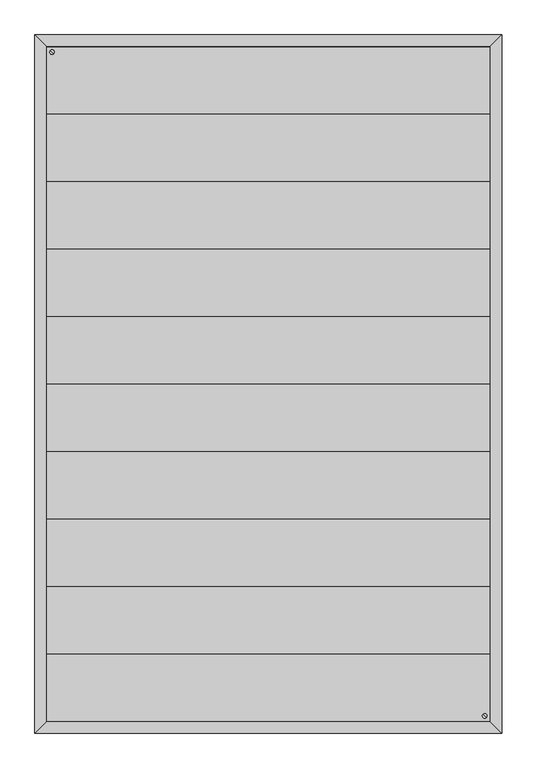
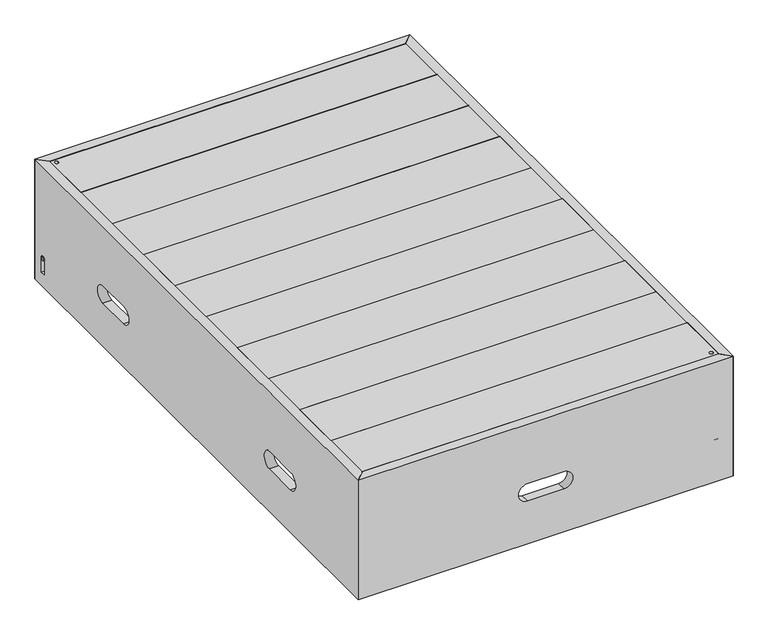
"""IFC4 building model written with IfcOpenShell, lengths in millimetres: furniture geometry, 4.6 Set de tarimas : 4.6 Set de tarimas."""

from ifc_helpers import new_model, si_unit, frame, origin, place, context, project, spatial, polyline, circle_curve, ellipse_curve, faceted_brep, source, transform, mapped, element, save
from ifc_brep_helpers import plane_surface, cylinder_surface, revolved_surface, advanced_brep


def furniture_102ea485(model_context):
    return source(origin(), model_context, "Body", "SolidModel", [
        advanced_brep(
        [(-518.85, 743.9, 83.2), (-518.85, 743.9, 38.1), (-493.45, 743.9, 38.1), (-493.45, 743.9, 83.2), (-518.85, 738.9, 88.2), (-493.45, 738.9, 88.2), (-518.85, 734.9, 88.2), (-493.45, 734.9, 88.2), (-518.85, 729.9, 83.2), (-493.45, 729.9, 83.2), (-518.85, 729.9, 38.1), (-493.45, 729.9, 38.1), (-518.85, -350.0, 125.4), (-518.85, -450.0, 125.4), (-493.45, -450.0, 125.4), (-493.45, -350.0, 125.4), (-518.85, -350.0, 175.4), (-493.45, -350.0, 175.4), (-518.85, -450.0, 175.4), (-493.45, -450.0, 175.4), (-518.85, 350.0, 175.4), (-518.85, 450.0, 175.4), (-493.45, 450.0, 175.4), (-493.45, 350.0, 175.4), (-518.85, 350.0, 125.4), (-493.45, 350.0, 125.4), (-518.85, 450.0, 125.4), (-493.45, 450.0, 125.4), (-493.45, -749.6, 350.0), (-493.45, 749.6, 350.0), (-518.85, 775.0, 350.0), (-518.85, -775.0, 350.0), (-493.45, 749.6, 0.0), (-493.45, -749.6, 0.0), (-518.85, -775.0, 0.0), (-518.85, 775.0, 0.0)],
        [
            (0, 1),
            (1, 2),
            (2, 3),
            (3, 0),
            (4, 0, circle_curve(frame((-518.85, 738.9, 83.2), z_axis=(-1.0, 0.0, 0.0), x_axis=(0.0, 0.7071067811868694, 0.7071067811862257)), 5.0)),
            (3, 5, circle_curve(frame((-493.45, 738.9, 83.2), z_axis=(1.0, 0.0, 0.0), x_axis=(0.0, 0.7071067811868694, 0.7071067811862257)), 5.0)),
            (5, 4),
            (6, 4),
            (5, 7),
            (7, 6),
            (8, 6, circle_curve(frame((-518.85, 734.9, 83.2), z_axis=(-1.0, 0.0, 0.0), x_axis=(0.0, -0.7071067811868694, 0.7071067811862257)), 5.0)),
            (7, 9, circle_curve(frame((-493.45, 734.9, 83.2), z_axis=(1.0, 0.0, 0.0), x_axis=(0.0, -0.7071067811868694, 0.7071067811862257)), 5.0)),
            (9, 8),
            (10, 8),
            (9, 11),
            (11, 10),
            (1, 10),
            (11, 2),
            (12, 13),
            (13, 14),
            (14, 15),
            (15, 12),
            (16, 12, circle_curve(frame((-518.85, -350.0, 150.4), z_axis=(-1.0, 0.0, 0.0), x_axis=(0.0, 0.7071067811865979, 0.7071067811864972)), 25.0)),
            (15, 17, circle_curve(frame((-493.45, -350.0, 150.4), z_axis=(1.0, 0.0, 0.0), x_axis=(0.0, 0.7071067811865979, 0.7071067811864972)), 25.0)),
            (17, 16),
            (18, 16),
            (17, 19),
            (19, 18),
            (13, 18, circle_curve(frame((-518.85, -450.0, 150.4), z_axis=(-1.0, 0.0, 0.0), x_axis=(0.0, -0.707106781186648, -0.7071067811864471)), 25.0)),
            (19, 14, circle_curve(frame((-493.45, -450.0, 150.4), z_axis=(1.0, 0.0, 0.0), x_axis=(0.0, -0.707106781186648, -0.7071067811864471)), 25.0)),
            (20, 21),
            (21, 22),
            (22, 23),
            (23, 20),
            (24, 20, circle_curve(frame((-518.85, 350.0, 150.4), z_axis=(-1.0, 0.0, 0.0), x_axis=(0.0, -0.7071067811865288, -0.7071067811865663)), 25.0)),
            (23, 25, circle_curve(frame((-493.45, 350.0, 150.4), z_axis=(1.0, 0.0, 0.0), x_axis=(0.0, -0.7071067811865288, -0.7071067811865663)), 25.0)),
            (25, 24),
            (26, 24),
            (25, 27),
            (27, 26),
            (21, 26, circle_curve(frame((-518.85, 450.0, 150.4), z_axis=(-1.0, 0.0, 0.0), x_axis=(0.0, 0.7071067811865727, 0.7071067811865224)), 25.0)),
            (27, 22, circle_curve(frame((-493.45, 450.0, 150.4), z_axis=(1.0, 0.0, 0.0), x_axis=(0.0, 0.7071067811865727, 0.7071067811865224)), 25.0)),
            (28, 29),
            (29, 30),
            (30, 31),
            (31, 28),
            (32, 33),
            (33, 34),
            (34, 35),
            (35, 32),
            (35, 30),
            (29, 32),
            (34, 31),
            (33, 28),
        ],
        [
            plane_surface(frame((-477.8826038, 743.9, 38.1), z_axis=(0.0, -1.0, 0.0), x_axis=(-1.0, 0.0, 0.0))),
            revolved_surface(polyline([(-518.85, 742.4355339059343, 86.73553390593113), (-493.45, 742.4355339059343, 86.73553390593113)]), (-477.8826038, 738.9, 83.2), (-1.0, 0.0, 0.0)),
            plane_surface(frame((-477.8826038, 738.9, 88.2), z_axis=(0.0, 0.0, -1.0), x_axis=(-1.0, 0.0, 0.0))),
            revolved_surface(polyline([(-518.85, 731.3644660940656, 86.73553390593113), (-493.45, 731.3644660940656, 86.73553390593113)]), (-477.8826038, 734.9, 83.2), (-1.0, 0.0, 0.0)),
            plane_surface(frame((-477.8826038, 729.9, 83.2), z_axis=(0.0, 1.0, 0.0), x_axis=(1.0, 0.0, 0.0))),
            plane_surface(frame((-477.8826038, 729.9, 38.1), z_axis=(0.0, 0.0, 1.0), x_axis=(1.0, 0.0, 0.0))),
            plane_surface(frame((-368.5812878, -450.0, 125.4), z_axis=(0.0, 0.0, 1.0), x_axis=(-1.0, 0.0, 0.0))),
            revolved_surface(polyline([(-518.85, -332.32233047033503, 168.07766952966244), (-493.45, -332.32233047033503, 168.07766952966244)]), (-368.5812878, -350.0, 150.4), (-1.0, 0.0, 0.0)),
            plane_surface(frame((-368.5812878, -350.0, 175.4), z_axis=(0.0, 0.0, -1.0), x_axis=(1.0, 0.0, 0.0))),
            revolved_surface(polyline([(-518.85, -467.6776695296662, 132.72233047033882), (-493.45, -467.6776695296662, 132.72233047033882)]), (-368.5812878, -450.0, 150.4), (-1.0, 0.0, 0.0)),
            plane_surface(frame((-368.5812878, 450.0, 175.4), z_axis=(0.0, 0.0, -1.0), x_axis=(1.0, 0.0, 0.0))),
            revolved_surface(polyline([(-518.85, 332.3223304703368, 132.72233047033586), (-493.45, 332.3223304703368, 132.72233047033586)]), (-368.5812878, 350.0, 150.4), (-1.0, 0.0, 0.0)),
            plane_surface(frame((-368.5812878, 350.0, 125.4), z_axis=(0.0, 0.0, 1.0), x_axis=(-1.0, 0.0, 0.0))),
            revolved_surface(polyline([(-518.85, 467.67766952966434, 168.07766952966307), (-493.45, 467.67766952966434, 168.07766952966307)]), (-368.5812878, 450.0, 150.4), (-1.0, 0.0, 0.0)),
            plane_surface(frame((-1066.4264895, -1060.8163252, 350.0), z_axis=(0.0, 0.0, 1.0), x_axis=(1.0, 0.0, 0.0))),
            plane_surface(frame((-506.15, 0.0, 0.0), z_axis=(0.0, 0.0, -1.0), x_axis=(1.0, 0.0, 0.0))),
            plane_surface(frame((-509.8697439, 766.0197439, 62.0803864), z_axis=(0.7071067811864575, 0.7071067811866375, 0.0), x_axis=(0.0, 0.0, 1.0))),
            plane_surface(frame((-518.85, 0.0, 62.0803864), z_axis=(-1.0, 0.0, 0.0), x_axis=(0.0, 0.0, -1.0))),
            plane_surface(frame((-509.8697439, -766.0197439, 62.0803864), z_axis=(0.7071067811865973, -0.7071067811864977, 0.0), x_axis=(0.0, 0.0, -1.0))),
            plane_surface(frame((-493.45, 0.0, 62.0803864), z_axis=(1.0, 0.0, 0.0), x_axis=(0.0, 0.0, 1.0))),
        ],
        [
            (0, [[1, 2, 3, 4]]),
            (1, [[5, -4, 6, 7]]),
            (2, [[8, -7, 9, 10]]),
            (3, [[11, -10, 12, 13]]),
            (4, [[14, -13, 15, 16]]),
            (5, [[17, -16, 18, -2]]),
            (6, [[19, 20, 21, 22]]),
            (7, [[23, -22, 24, 25]]),
            (8, [[26, -25, 27, 28]]),
            (9, [[29, -28, 30, -20]]),
            (10, [[31, 32, 33, 34]]),
            (11, [[35, -34, 36, 37]]),
            (12, [[38, -37, 39, 40]]),
            (13, [[41, -40, 42, -32]]),
            (14, [[43, 44, 45, 46]]),
            (15, [[47, 48, 49, 50]]),
            (16, [[51, -44, 52, -50]]),
            (17, [[53, -45, -51, -49], [-11, -14, -17, -1, -5, -8], [-26, -29, -19, -23], [-38, -41, -31, -35]]),
            (18, [[54, -46, -53, -48]]),
            (19, [[-52, -43, -54, -47], [-12, -9, -6, -3, -18, -15], [-27, -24, -21, -30], [-39, -36, -33, -42]]),
        ],
    ),
        advanced_brep(
        [(518.85, -743.9, 83.2), (518.85, -743.9, 38.1), (493.45, -743.9, 38.1), (493.45, -743.9, 83.2), (518.85, -738.9, 88.2), (493.45, -738.9, 88.2), (518.85, -734.9, 88.2), (493.45, -734.9, 88.2), (518.85, -729.9, 83.2), (493.45, -729.9, 83.2), (518.85, -729.9, 38.1), (493.45, -729.9, 38.1), (518.85, 450.0, 175.4), (518.85, 350.0, 175.4), (493.45, 350.0, 175.4), (493.45, 450.0, 175.4), (518.85, 450.0, 125.4), (493.45, 450.0, 125.4), (518.85, 350.0, 125.4), (493.45, 350.0, 125.4), (518.85, -450.0, 125.4), (518.85, -350.0, 125.4), (493.45, -350.0, 125.4), (493.45, -450.0, 125.4), (518.85, -450.0, 175.4), (493.45, -450.0, 175.4), (518.85, -350.0, 175.4), (493.45, -350.0, 175.4), (493.45, 749.6, 350.0), (493.45, -749.6, 350.0), (518.85, -775.0, 350.0), (518.85, 775.0, 350.0), (493.45, -749.6, 0.0), (493.45, 749.6, 0.0), (518.85, 775.0, 0.0), (518.85, -775.0, 0.0)],
        [
            (0, 1),
            (1, 2),
            (2, 3),
            (3, 0),
            (4, 0, circle_curve(frame((518.85, -738.9, 83.2), z_axis=(1.0, 0.0, 0.0), x_axis=(0.0, -0.7071067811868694, 0.7071067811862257)), 5.0)),
            (3, 5, circle_curve(frame((493.45, -738.9, 83.2), z_axis=(-1.0, 0.0, 0.0), x_axis=(0.0, -0.7071067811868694, 0.7071067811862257)), 5.0)),
            (5, 4),
            (6, 4),
            (5, 7),
            (7, 6),
            (8, 6, circle_curve(frame((518.85, -734.9, 83.2), z_axis=(1.0, 0.0, 0.0), x_axis=(0.0, 0.7071067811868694, 0.7071067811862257)), 5.0)),
            (7, 9, circle_curve(frame((493.45, -734.9, 83.2), z_axis=(-1.0, 0.0, 0.0), x_axis=(0.0, 0.7071067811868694, 0.7071067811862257)), 5.0)),
            (9, 8),
            (10, 8),
            (9, 11),
            (11, 10),
            (1, 10),
            (11, 2),
            (12, 13),
            (13, 14),
            (14, 15),
            (15, 12),
            (16, 12, circle_curve(frame((518.85, 450.0, 150.4), z_axis=(1.0, 0.0, 0.0), x_axis=(0.0, 0.7071067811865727, 0.7071067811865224)), 25.0)),
            (15, 17, circle_curve(frame((493.45, 450.0, 150.4), z_axis=(-1.0, 0.0, 0.0), x_axis=(0.0, 0.7071067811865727, 0.7071067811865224)), 25.0)),
            (17, 16),
            (18, 16),
            (17, 19),
            (19, 18),
            (13, 18, circle_curve(frame((518.85, 350.0, 150.4), z_axis=(1.0, 0.0, 0.0), x_axis=(0.0, -0.7071067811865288, -0.7071067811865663)), 25.0)),
            (19, 14, circle_curve(frame((493.45, 350.0, 150.4), z_axis=(-1.0, 0.0, 0.0), x_axis=(0.0, -0.7071067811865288, -0.7071067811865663)), 25.0)),
            (20, 21),
            (21, 22),
            (22, 23),
            (23, 20),
            (24, 20, circle_curve(frame((518.85, -450.0, 150.4), z_axis=(1.0, 0.0, 0.0), x_axis=(0.0, -0.707106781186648, -0.7071067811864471)), 25.0)),
            (23, 25, circle_curve(frame((493.45, -450.0, 150.4), z_axis=(-1.0, 0.0, 0.0), x_axis=(0.0, -0.707106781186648, -0.7071067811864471)), 25.0)),
            (25, 24),
            (26, 24),
            (25, 27),
            (27, 26),
            (21, 26, circle_curve(frame((518.85, -350.0, 150.4), z_axis=(1.0, 0.0, 0.0), x_axis=(0.0, 0.7071067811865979, 0.7071067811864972)), 25.0)),
            (27, 22, circle_curve(frame((493.45, -350.0, 150.4), z_axis=(-1.0, 0.0, 0.0), x_axis=(0.0, 0.7071067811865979, 0.7071067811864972)), 25.0)),
            (28, 29),
            (29, 30),
            (30, 31),
            (31, 28),
            (32, 33),
            (33, 34),
            (34, 35),
            (35, 32),
            (31, 34),
            (33, 28),
            (30, 35),
            (29, 32),
        ],
        [
            plane_surface(frame((482.9566379, -743.9, 38.1), z_axis=(0.0, 1.0, 0.0), x_axis=(1.0, 0.0, 0.0))),
            revolved_surface(polyline([(518.85, -742.4355339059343, 86.73553390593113), (493.45, -742.4355339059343, 86.73553390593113)]), (482.9566379, -738.9, 83.2), (1.0, 0.0, 0.0)),
            plane_surface(frame((482.9566379, -738.9, 88.2), z_axis=(0.0, 0.0, -1.0), x_axis=(1.0, 0.0, 0.0))),
            revolved_surface(polyline([(518.85, -731.3644660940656, 86.73553390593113), (493.45, -731.3644660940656, 86.73553390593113)]), (482.9566379, -734.9, 83.2), (1.0, 0.0, 0.0)),
            plane_surface(frame((482.9566379, -729.9, 83.2), z_axis=(0.0, -1.0, 0.0), x_axis=(-1.0, 0.0, 0.0))),
            plane_surface(frame((482.9566379, -729.9, 38.1), z_axis=(0.0, 0.0, 1.0), x_axis=(-1.0, 0.0, 0.0))),
            plane_surface(frame((368.5812878, 450.0, 175.4), z_axis=(0.0, 0.0, -1.0), x_axis=(-1.0, 0.0, 0.0))),
            revolved_surface(polyline([(493.45, 467.67766952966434, 168.07766952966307), (518.85, 467.67766952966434, 168.07766952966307)]), (368.5812878, 450.0, 150.4), (-1.0, 0.0, 0.0)),
            plane_surface(frame((368.5812878, 350.0, 125.4), z_axis=(0.0, 0.0, 1.0), x_axis=(1.0, 0.0, 0.0))),
            revolved_surface(polyline([(493.45, 332.3223304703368, 132.72233047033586), (518.85, 332.3223304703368, 132.72233047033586)]), (368.5812878, 350.0, 150.4), (-1.0, 0.0, 0.0)),
            plane_surface(frame((368.5812878, -450.0, 125.4), z_axis=(0.0, 0.0, 1.0), x_axis=(1.0, 0.0, 0.0))),
            revolved_surface(polyline([(493.45, -467.6776695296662, 132.72233047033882), (518.85, -467.6776695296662, 132.72233047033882)]), (368.5812878, -450.0, 150.4), (-1.0, 0.0, 0.0)),
            plane_surface(frame((368.5812878, -350.0, 175.4), z_axis=(0.0, 0.0, -1.0), x_axis=(-1.0, 0.0, 0.0))),
            revolved_surface(polyline([(493.45, -332.32233047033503, 168.07766952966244), (518.85, -332.32233047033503, 168.07766952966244)]), (368.5812878, -350.0, 150.4), (-1.0, 0.0, 0.0)),
            plane_surface(frame((-1066.5675451, -1060.8163252, 350.0), z_axis=(0.0, 0.0, 1.0), x_axis=(-1.0, 0.0, 0.0))),
            plane_surface(frame((506.15, 0.0, 0.0), z_axis=(0.0, 0.0, -1.0), x_axis=(-1.0, 0.0, 0.0))),
            plane_surface(frame((509.8697439, 766.0197439, 62.0803864), z_axis=(-0.7071067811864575, 0.7071067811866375, 0.0), x_axis=(0.0, 0.0, 1.0))),
            plane_surface(frame((518.85, 0.0, 62.0803864), z_axis=(1.0, 0.0, 0.0), x_axis=(0.0, 0.0, -1.0))),
            plane_surface(frame((509.8697439, -766.0197439, 62.0803864), z_axis=(-0.7071067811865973, -0.7071067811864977, 0.0), x_axis=(0.0, 0.0, -1.0))),
            plane_surface(frame((493.45, 0.0, 62.0803864), z_axis=(-1.0, 0.0, 0.0), x_axis=(0.0, 0.0, 1.0))),
        ],
        [
            (0, [[1, 2, 3, 4]]),
            (1, [[5, -4, 6, 7]]),
            (2, [[8, -7, 9, 10]]),
            (3, [[11, -10, 12, 13]]),
            (4, [[14, -13, 15, 16]]),
            (5, [[17, -16, 18, -2]]),
            (6, [[19, 20, 21, 22]]),
            (7, [[23, -22, 24, 25]]),
            (8, [[26, -25, 27, 28]]),
            (9, [[29, -28, 30, -20]]),
            (10, [[31, 32, 33, 34]]),
            (11, [[35, -34, 36, 37]]),
            (12, [[38, -37, 39, 40]]),
            (13, [[41, -40, 42, -32]]),
            (14, [[43, 44, 45, 46]]),
            (15, [[47, 48, 49, 50]]),
            (16, [[51, -48, 52, -46]]),
            (17, [[53, -49, -51, -45], [-11, -14, -17, -1, -5, -8], [-26, -29, -19, -23], [-38, -41, -31, -35]]),
            (18, [[54, -50, -53, -44]]),
            (19, [[-52, -47, -54, -43], [-12, -9, -6, -3, -18, -15], [-27, -24, -21, -30], [-39, -36, -33, -42]]),
        ],
    ),
        advanced_brep(
        [(50.0, 775.0, 125.4), (-50.0, 775.0, 125.4), (-50.0, 749.6, 125.4), (50.0, 749.6, 125.4), (54.4542115, 775.0, 175.0), (54.4542115, 749.6, 175.0), (-54.4542115, 775.0, 175.0), (-54.4542115, 749.6, 175.0), (-518.85, 775.0, 0.0), (-493.45, 749.6, 0.0), (-493.45, 749.6, 350.0), (-518.85, 775.0, 350.0), (518.85, 775.0, 350.0), (518.85, 775.0, 0.0), (493.45, 749.6, 0.0), (493.45, 749.6, 350.0)],
        [
            (0, 1),
            (1, 2),
            (2, 3),
            (3, 0),
            (4, 0, circle_curve(frame((50.0, 775.0, 150.4), z_axis=(0.0, 1.0, 0.0), x_axis=(0.7675182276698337, 0.0, 0.6410271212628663)), 25.0)),
            (3, 5, circle_curve(frame((50.0, 749.6, 150.4), z_axis=(0.0, -1.0, 0.0), x_axis=(0.7675182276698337, 0.0, 0.6410271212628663)), 25.0)),
            (5, 4),
            (6, 4),
            (5, 7),
            (7, 6),
            (1, 6, circle_curve(frame((-50.0, 775.0, 150.4), z_axis=(0.0, 1.0, 0.0), x_axis=(-0.70710678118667, 0.0, -0.707106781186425)), 25.0)),
            (7, 2, circle_curve(frame((-50.0, 749.6, 150.4), z_axis=(0.0, -1.0, 0.0), x_axis=(-0.70710678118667, 0.0, -0.707106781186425)), 25.0)),
            (8, 9),
            (9, 10),
            (10, 11),
            (11, 8),
            (11, 12),
            (12, 13),
            (13, 8),
            (13, 14),
            (14, 9),
            (10, 15),
            (15, 12),
            (15, 14),
        ],
        [
            plane_surface(frame((-50.0, 745.0, 125.4), z_axis=(0.0, 0.0, 1.0), x_axis=(0.0, 1.0, 0.0))),
            revolved_surface(polyline([(69.18795569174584, 775.0, 166.42567803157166), (69.18795569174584, 749.6, 166.42567803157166)]), (50.0, 745.0, 150.4), (0.0, 1.0, 0.0)),
            plane_surface(frame((54.4542115, 745.0, 175.0), z_axis=(0.0, 0.0, -1.0), x_axis=(0.0, -1.0, 0.0))),
            revolved_surface(polyline([(-67.67766952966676, 775.0, 132.7223304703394), (-67.67766952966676, 749.6, 132.7223304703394)]), (-50.0, 745.0, 150.4), (0.0, 1.0, 0.0)),
            plane_surface(frame((-381.15, 637.3, 62.0803864), z_axis=(-0.7071067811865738, -0.7071067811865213, 0.0), x_axis=(0.0, 0.0, 1.0))),
            plane_surface(frame((-256.15, 775.0, 62.0803864), z_axis=(0.0, 1.0, 0.0), x_axis=(0.0, 0.0, -1.0))),
            plane_surface(frame((-256.15, 762.3, 0.0), z_axis=(0.0, 0.0, -1.0), x_axis=(0.0, -1.0, 0.0))),
            plane_surface(frame((-1322.6470173, 774.8937798, 350.0), z_axis=(0.0, 0.0, 1.0), x_axis=(0.0, -1.0, 0.0))),
            plane_surface(frame((509.8697439, 766.0197439, 62.0803864), z_axis=(0.7071067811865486, -0.7071067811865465, 0.0), x_axis=(0.0, 0.0, -1.0))),
            plane_surface(frame((-256.15, 749.6, 62.0803864), z_axis=(0.0, -1.0, 0.0), x_axis=(0.0, 0.0, 1.0))),
        ],
        [
            (0, [[1, 2, 3, 4]]),
            (1, [[5, -4, 6, 7]]),
            (2, [[8, -7, 9, 10]]),
            (3, [[11, -10, 12, -2]]),
            (4, [[13, 14, 15, 16]]),
            (5, [[-16, 17, 18, 19], [-8, -11, -1, -5]]),
            (6, [[-13, -19, 20, 21]]),
            (7, [[-15, 22, 23, -17]]),
            (8, [[24, -20, -18, -23]]),
            (9, [[-14, -21, -24, -22], [-9, -6, -3, -12]]),
        ],
    ),
        advanced_brep(
        [(-50.0, -775.0, 125.4), (50.0, -775.0, 125.4), (50.0, -749.6, 125.4), (-50.0, -749.6, 125.4), (-54.4542115, -775.0, 175.0), (-54.4542115, -749.6, 175.0), (54.4542115, -775.0, 175.0), (54.4542115, -749.6, 175.0), (-493.45, -749.6, 0.0), (-518.85, -775.0, 0.0), (-518.85, -775.0, 350.0), (-493.45, -749.6, 350.0), (518.85, -775.0, 0.0), (518.85, -775.0, 350.0), (493.45, -749.6, 0.0), (493.45, -749.6, 350.0)],
        [
            (0, 1),
            (1, 2),
            (2, 3),
            (3, 0),
            (4, 0, circle_curve(frame((-50.0, -775.0, 150.4), z_axis=(0.0, -1.0, 0.0), x_axis=(-0.70710678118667, 0.0, -0.707106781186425)), 25.0)),
            (3, 5, circle_curve(frame((-50.0, -749.6, 150.4), z_axis=(0.0, 1.0, 0.0), x_axis=(-0.70710678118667, 0.0, -0.707106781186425)), 25.0)),
            (5, 4),
            (6, 4),
            (5, 7),
            (7, 6),
            (1, 6, circle_curve(frame((50.0, -775.0, 150.4), z_axis=(0.0, -1.0, 0.0), x_axis=(0.7675182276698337, 0.0, 0.6410271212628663)), 25.0)),
            (7, 2, circle_curve(frame((50.0, -749.6, 150.4), z_axis=(0.0, 1.0, 0.0), x_axis=(0.7675182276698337, 0.0, 0.6410271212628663)), 25.0)),
            (8, 9),
            (9, 10),
            (10, 11),
            (11, 8),
            (9, 12),
            (12, 13),
            (13, 10),
            (8, 14),
            (14, 12),
            (13, 15),
            (15, 11),
            (14, 15),
        ],
        [
            plane_surface(frame((-50.0, -745.0, 125.4), z_axis=(0.0, 0.0, 1.0), x_axis=(0.0, -1.0, 0.0))),
            revolved_surface(polyline([(-67.67766952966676, -749.6, 132.7223304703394), (-67.67766952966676, -775.0, 132.7223304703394)]), (-50.0, -745.0, 150.4), (0.0, 1.0, 0.0)),
            plane_surface(frame((54.4542115, -745.0, 175.0), z_axis=(0.0, 0.0, -1.0), x_axis=(0.0, 1.0, 0.0))),
            revolved_surface(polyline([(69.18795569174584, -749.6, 166.42567803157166), (69.18795569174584, -775.0, 166.42567803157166)]), (50.0, -745.0, 150.4), (0.0, 1.0, 0.0)),
            plane_surface(frame((-381.15, -637.3, 62.0803864), z_axis=(-0.7071067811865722, 0.7071067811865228, 0.0), x_axis=(0.0, 0.0, 1.0))),
            plane_surface(frame((-256.15, -775.0, 62.0803864), z_axis=(0.0, -1.0, 0.0), x_axis=(0.0, 0.0, -1.0))),
            plane_surface(frame((-256.15, -762.3, 0.0), z_axis=(0.0, 0.0, -1.0), x_axis=(0.0, 1.0, 0.0))),
            plane_surface(frame((-1322.6470173, -1060.710105, 350.0), z_axis=(0.0, 0.0, 1.0), x_axis=(0.0, 1.0, 0.0))),
            plane_surface(frame((509.8697439, -766.0197439, 62.0803864), z_axis=(0.7071067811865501, 0.7071067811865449, 0.0), x_axis=(0.0, 0.0, -1.0))),
            plane_surface(frame((-256.15, -749.6, 62.0803864), z_axis=(0.0, 1.0, 0.0), x_axis=(0.0, 0.0, 1.0))),
        ],
        [
            (0, [[1, 2, 3, 4]]),
            (1, [[5, -4, 6, 7]]),
            (2, [[8, -7, 9, 10]]),
            (3, [[11, -10, 12, -2]]),
            (4, [[13, 14, 15, 16]]),
            (5, [[-14, 17, 18, 19], [-8, -11, -1, -5]]),
            (6, [[-13, 20, 21, -17]]),
            (7, [[-15, -19, 22, 23]]),
            (8, [[24, -22, -18, -21]]),
            (9, [[-16, -23, -24, -20], [-9, -6, -3, -12]]),
        ],
    ),
        faceted_brep([(468.05, 724.2, 38.0), (493.45, 749.6, 38.0), (-493.45, 749.6, 38.0), (-468.05, 724.2, 38.0), (493.45, 749.6, 0.0), (468.05, 724.2, 0.0), (-468.05, 724.2, 0.0), (-493.45, 749.6, 0.0)], [[[0, 1, 2, 3]], [[4, 5, 6, 7]], [[3, 6, 5, 0]], [[2, 7, 6, 3]], [[1, 4, 7, 2]], [[0, 5, 4, 1]]]),
        faceted_brep([(493.45, -749.6, 38.0), (468.05, -724.2, 38.0), (-468.05, -724.2, 38.0), (-493.45, -749.6, 38.0), (468.05, -724.2, 0.0), (493.45, -749.6, 0.0), (-493.45, -749.6, 0.0), (-468.05, -724.2, 0.0)], [[[0, 1, 2, 3]], [[4, 5, 6, 7]], [[7, 2, 1, 4]], [[6, 3, 2, 7]], [[5, 0, 3, 6]], [[4, 1, 0, 5]]]),
        faceted_brep([(-493.45, -749.6, 38.0), (-468.05, -724.2, 38.0), (-468.05, 724.2, 38.0), (-493.45, 749.6, 38.0), (-468.05, -724.2, 0.0), (-493.45, -749.6, 0.0), (-493.45, 749.6, 0.0), (-468.05, 724.2, 0.0)], [[[0, 1, 2, 3]], [[4, 5, 6, 7]], [[7, 2, 1, 4]], [[6, 3, 2, 7]], [[5, 0, 3, 6]], [[4, 1, 0, 5]]]),
        faceted_brep([(468.05, -724.2, 38.0), (493.45, -749.6, 38.0), (493.45, 749.6, 38.0), (468.05, 724.2, 38.0), (493.45, -749.6, 0.0), (468.05, -724.2, 0.0), (468.05, 724.2, 0.0), (493.45, 749.6, 0.0)], [[[0, 1, 2, 3]], [[4, 5, 6, 7]], [[3, 6, 5, 0]], [[2, 7, 6, 3]], [[1, 4, 7, 2]], [[0, 5, 4, 1]]]),
        faceted_brep([(468.05, 724.2, 325.0), (493.45, 749.6, 325.0), (-493.45, 749.6, 325.0), (-468.05, 724.2, 325.0), (493.45, 749.6, 287.0), (468.05, 724.2, 287.0), (-468.05, 724.2, 287.0), (-493.45, 749.6, 287.0)], [[[0, 1, 2, 3]], [[4, 5, 6, 7]], [[3, 6, 5, 0]], [[2, 7, 6, 3]], [[1, 4, 7, 2]], [[0, 5, 4, 1]]]),
        faceted_brep([(493.45, -749.6, 325.0), (468.05, -724.2, 325.0), (-468.05, -724.2, 325.0), (-493.45, -749.6, 325.0), (468.05, -724.2, 287.0), (493.45, -749.6, 287.0), (-493.45, -749.6, 287.0), (-468.05, -724.2, 287.0)], [[[0, 1, 2, 3]], [[4, 5, 6, 7]], [[7, 2, 1, 4]], [[6, 3, 2, 7]], [[5, 0, 3, 6]], [[4, 1, 0, 5]]]),
        faceted_brep([(-493.45, -749.6, 325.0), (-468.05, -724.2, 325.0), (-468.05, 724.2, 325.0), (-493.45, 749.6, 325.0), (-468.05, -724.2, 287.0), (-493.45, -749.6, 287.0), (-493.45, 749.6, 287.0), (-468.05, 724.2, 287.0)], [[[0, 1, 2, 3]], [[4, 5, 6, 7]], [[7, 2, 1, 4]], [[6, 3, 2, 7]], [[5, 0, 3, 6]], [[4, 1, 0, 5]]]),
        faceted_brep([(468.05, -724.2, 325.0), (493.45, -749.6, 325.0), (493.45, 749.6, 325.0), (468.05, 724.2, 325.0), (493.45, -749.6, 287.0), (468.05, -724.2, 287.0), (468.05, 724.2, 287.0), (493.45, 749.6, 287.0)], [[[0, 1, 2, 3]], [[4, 5, 6, 7]], [[3, 6, 5, 0]], [[2, 7, 6, 3]], [[1, 4, 7, 2]], [[0, 5, 4, 1]]]),
        advanced_brep(
        [(485.75, -736.9, 350.0), (485.75, -736.9, 325.0), (475.75, -736.9, 325.0), (475.75, -736.9, 350.0), (-493.45, -600.1, 350.0), (-493.45, -749.1, 350.0), (493.45, -749.1, 350.0), (493.45, -600.1, 350.0), (-493.45, -749.1, 325.0), (-493.45, -600.1, 325.0), (493.45, -600.1, 325.0), (493.45, -749.1, 325.0)],
        [
            (0, 1),
            (1, 2, circle_curve(frame((480.75, -736.9, 325.0), z_axis=(0.0, 0.0, -1.0), x_axis=(1.0, 0.0, 0.0)), 5.0)),
            (2, 3),
            (3, 0, circle_curve(frame((480.75, -736.9, 350.0), z_axis=(0.0, 0.0, 1.0), x_axis=(1.0, 0.0, 0.0)), 5.0)),
            (0, 3, circle_curve(frame((480.75, -736.9, 350.0), z_axis=(0.0, 0.0, 1.0), x_axis=(1.0, 0.0, 0.0)), 5.0)),
            (2, 1, circle_curve(frame((480.75, -736.9, 325.0), z_axis=(0.0, 0.0, -1.0), x_axis=(1.0, 0.0, 0.0)), 5.0)),
            (4, 5),
            (5, 6),
            (6, 7),
            (7, 4),
            (8, 9),
            (9, 10),
            (10, 11),
            (11, 8),
            (11, 6),
            (5, 8),
            (10, 7),
            (9, 4),
        ],
        [
            revolved_surface(polyline([(485.75, -736.9, 350.0), (485.75, -736.9, 325.0)]), (480.75, -736.9, 0.0), (0.0, 0.0, 1.0)),
            plane_surface(frame((0.0, -674.6, 350.0), z_axis=(0.0, 0.0, 1.0), x_axis=(-1.0, 0.0, 0.0))),
            plane_surface(frame((0.0, -674.6, 325.0), z_axis=(0.0, 0.0, -1.0), x_axis=(-1.0, 0.0, 0.0))),
            plane_surface(frame((0.0, -749.1, 337.5), z_axis=(0.0, -1.0, 0.0), x_axis=(0.0, 0.0, 1.0))),
            plane_surface(frame((493.45, -674.6, 337.5), z_axis=(1.0, 0.0, 0.0), x_axis=(0.0, 0.0, -1.0))),
            plane_surface(frame((0.0, -600.1, 337.5), z_axis=(0.0, 1.0, 0.0), x_axis=(0.0, 0.0, -1.0))),
            plane_surface(frame((-493.45, -674.6, 337.5), z_axis=(-1.0, 0.0, 0.0), x_axis=(0.0, 0.0, 1.0))),
        ],
        [
            (0, [[1, 2, 3, 4]]),
            (0, [[-1, 5, -3, 6]]),
            (1, [[7, 8, 9, 10], [-5, -4]]),
            (2, [[11, 12, 13, 14], [-2, -6]]),
            (3, [[15, -8, 16, -14]]),
            (4, [[17, -9, -15, -13]]),
            (5, [[18, -10, -17, -12]]),
            (6, [[-16, -7, -18, -11]]),
        ],
    ),
        faceted_brep([(-493.45, -450.3, 350.0), (-493.45, -599.3, 350.0), (493.45, -599.3, 350.0), (493.45, -450.3, 350.0), (-493.45, -599.3, 325.0), (-493.45, -450.3, 325.0), (493.45, -450.3, 325.0), (493.45, -599.3, 325.0)], [[[0, 1, 2, 3]], [[4, 5, 6, 7]], [[7, 2, 1, 4]], [[6, 3, 2, 7]], [[5, 0, 3, 6]], [[4, 1, 0, 5]]]),
        faceted_brep([(-493.45, -300.5, 350.0), (-493.45, -449.5, 350.0), (493.45, -449.5, 350.0), (493.45, -300.5, 350.0), (-493.45, -449.5, 325.0), (-493.45, -300.5, 325.0), (493.45, -300.5, 325.0), (493.45, -449.5, 325.0)], [[[0, 1, 2, 3]], [[4, 5, 6, 7]], [[7, 2, 1, 4]], [[6, 3, 2, 7]], [[5, 0, 3, 6]], [[4, 1, 0, 5]]]),
        faceted_brep([(-493.45, -150.7, 350.0), (-493.45, -299.7, 350.0), (493.45, -299.7, 350.0), (493.45, -150.7, 350.0), (-493.45, -299.7, 325.0), (-493.45, -150.7, 325.0), (493.45, -150.7, 325.0), (493.45, -299.7, 325.0)], [[[0, 1, 2, 3]], [[4, 5, 6, 7]], [[7, 2, 1, 4]], [[6, 3, 2, 7]], [[5, 0, 3, 6]], [[4, 1, 0, 5]]]),
        faceted_brep([(-493.45, -0.9, 350.0), (-493.45, -149.9, 350.0), (493.45, -149.9, 350.0), (493.45, -0.9, 350.0), (-493.45, -149.9, 325.0), (-493.45, -0.9, 325.0), (493.45, -0.9, 325.0), (493.45, -149.9, 325.0)], [[[0, 1, 2, 3]], [[4, 5, 6, 7]], [[7, 2, 1, 4]], [[6, 3, 2, 7]], [[5, 0, 3, 6]], [[4, 1, 0, 5]]]),
        faceted_brep([(-493.45, 148.9, 350.0), (-493.45, -0.1, 350.0), (493.45, -0.1, 350.0), (493.45, 148.9, 350.0), (-493.45, -0.1, 325.0), (-493.45, 148.9, 325.0), (493.45, 148.9, 325.0), (493.45, -0.1, 325.0)], [[[0, 1, 2, 3]], [[4, 5, 6, 7]], [[7, 2, 1, 4]], [[6, 3, 2, 7]], [[5, 0, 3, 6]], [[4, 1, 0, 5]]]),
        faceted_brep([(-493.45, 298.7, 350.0), (-493.45, 149.7, 350.0), (493.45, 149.7, 350.0), (493.45, 298.7, 350.0), (-493.45, 149.7, 325.0), (-493.45, 298.7, 325.0), (493.45, 298.7, 325.0), (493.45, 149.7, 325.0)], [[[0, 1, 2, 3]], [[4, 5, 6, 7]], [[7, 2, 1, 4]], [[6, 3, 2, 7]], [[5, 0, 3, 6]], [[4, 1, 0, 5]]]),
        faceted_brep([(-493.45, 448.5, 350.0), (-493.45, 299.5, 350.0), (493.45, 299.5, 350.0), (493.45, 448.5, 350.0), (-493.45, 299.5, 325.0), (-493.45, 448.5, 325.0), (493.45, 448.5, 325.0), (493.45, 299.5, 325.0)], [[[0, 1, 2, 3]], [[4, 5, 6, 7]], [[7, 2, 1, 4]], [[6, 3, 2, 7]], [[5, 0, 3, 6]], [[4, 1, 0, 5]]]),
        faceted_brep([(-493.45, 598.3, 350.0), (-493.45, 449.3, 350.0), (493.45, 449.3, 350.0), (493.45, 598.3, 350.0), (-493.45, 449.3, 325.0), (-493.45, 598.3, 325.0), (493.45, 598.3, 325.0), (493.45, 449.3, 325.0)], [[[0, 1, 2, 3]], [[4, 5, 6, 7]], [[7, 2, 1, 4]], [[6, 3, 2, 7]], [[5, 0, 3, 6]], [[4, 1, 0, 5]]]),
        advanced_brep(
        [(-475.75, 736.9, 350.0), (-475.75, 736.9, 325.0), (-485.75, 736.9, 325.0), (-485.75, 736.9, 350.0), (-493.45, 748.1, 350.0), (-493.45, 599.1, 350.0), (493.45, 599.1, 350.0), (493.45, 748.1, 350.0), (-493.45, 599.1, 325.0), (-493.45, 748.1, 325.0), (493.45, 748.1, 325.0), (493.45, 599.1, 325.0)],
        [
            (0, 1),
            (1, 2, circle_curve(frame((-480.75, 736.9, 325.0), z_axis=(0.0, 0.0, -1.0), x_axis=(1.0, 0.0, 0.0)), 5.0)),
            (2, 3),
            (3, 0, circle_curve(frame((-480.75, 736.9, 350.0), z_axis=(0.0, 0.0, 1.0), x_axis=(1.0, 0.0, 0.0)), 5.0)),
            (0, 3, circle_curve(frame((-480.75, 736.9, 350.0), z_axis=(0.0, 0.0, 1.0), x_axis=(1.0, 0.0, 0.0)), 5.0)),
            (2, 1, circle_curve(frame((-480.75, 736.9, 325.0), z_axis=(0.0, 0.0, -1.0), x_axis=(1.0, 0.0, 0.0)), 5.0)),
            (4, 5),
            (5, 6),
            (6, 7),
            (7, 4),
            (8, 9),
            (9, 10),
            (10, 11),
            (11, 8),
            (11, 6),
            (5, 8),
            (10, 7),
            (9, 4),
        ],
        [
            revolved_surface(polyline([(-475.75, 736.9, 350.0), (-475.75, 736.9, 325.0)]), (-480.75, 736.9, 0.0), (0.0, 0.0, 1.0)),
            plane_surface(frame((0.0, 673.6, 350.0), z_axis=(0.0, 0.0, 1.0), x_axis=(-1.0, 0.0, 0.0))),
            plane_surface(frame((0.0, 673.6, 325.0), z_axis=(0.0, 0.0, -1.0), x_axis=(-1.0, 0.0, 0.0))),
            plane_surface(frame((0.0, 599.1, 337.5), z_axis=(0.0, -1.0, 0.0), x_axis=(0.0, 0.0, 1.0))),
            plane_surface(frame((493.45, 673.6, 337.5), z_axis=(1.0, 0.0, 0.0), x_axis=(0.0, 0.0, -1.0))),
            plane_surface(frame((0.0, 748.1, 337.5), z_axis=(0.0, 1.0, 0.0), x_axis=(0.0, 0.0, -1.0))),
            plane_surface(frame((-493.45, 673.6, 337.5), z_axis=(-1.0, 0.0, 0.0), x_axis=(0.0, 0.0, 1.0))),
        ],
        [
            (0, [[1, 2, 3, 4]]),
            (0, [[-1, 5, -3, 6]]),
            (1, [[7, 8, 9, 10], [-5, -4]]),
            (2, [[11, 12, 13, 14], [-2, -6]]),
            (3, [[15, -8, 16, -14]]),
            (4, [[17, -9, -15, -13]]),
            (5, [[18, -10, -17, -12]]),
            (6, [[-16, -7, -18, -11]]),
        ],
    ),
        advanced_brep(
        [(485.75, -736.9, 0.0), (485.75, -736.9, 75.8433608), (475.75, -736.9, 85.8433608), (475.75, -736.9, 0.0)],
        [
            (0, 1),
            (1, 2, ellipse_curve(frame((480.75, -736.9, 80.8433608), z_axis=(-0.7071067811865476, 0.0, -0.7071067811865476), x_axis=(0.7071067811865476, 0.0, -0.7071067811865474)), 7.0710678, 5.0)),
            (2, 3),
            (3, 0, circle_curve(frame((480.75, -736.9, 0.0), z_axis=(0.0, 0.0, 1.0), x_axis=(0.9999999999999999, 0.0, 0.0)), 5.0)),
            (1, 2, ellipse_curve(frame((480.75, -736.9, 80.8433608), z_axis=(0.7071067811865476, 0.0, 0.7071067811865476), x_axis=(0.7071067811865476, 0.0, -0.7071067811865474)), 7.0710678, 5.0)),
            (0, 3, circle_curve(frame((480.75, -736.9, 0.0), z_axis=(0.0, 0.0, 1.0), x_axis=(0.9999999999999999, 0.0, 0.0)), 5.0)),
        ],
        [
            cylinder_surface(frame((480.75, -736.9, 70.6592531), z_axis=(0.0, 0.0, -1.0), x_axis=(0.9999999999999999, 0.0, 0.0)), 5.0),
            plane_surface(frame((485.8420538, -736.9, 75.751307), z_axis=(0.7071067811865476, 0.0, 0.7071067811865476), x_axis=(0.0, 1.0, 0.0))),
            plane_surface(frame((506.15, -762.3, 0.0), z_axis=(0.0, 0.0, -1.0), x_axis=(-1.0, 0.0, 0.0))),
        ],
        [
            (0, [[1, 2, 3, 4]]),
            (1, [[5, -2]]),
            (0, [[-1, 6, -3, -5]]),
            (2, [[-4, -6]]),
        ],
    ),
        advanced_brep(
        [(518.85, -736.9, 75.8433608), (485.75, -736.9, 75.8433608), (475.75, -736.9, 85.8433608), (518.85, -736.9, 85.8433608)],
        [
            (0, 1),
            (1, 2, ellipse_curve(frame((480.75, -736.9, 80.8433608), z_axis=(0.7071067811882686, 0.0, 0.7071067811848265), x_axis=(-0.7071067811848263, 0.0, 0.7071067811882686)), 7.0710678, 5.0)),
            (2, 3),
            (3, 0, circle_curve(frame((518.85, -736.9, 80.8433608), z_axis=(-1.0, 0.0, 0.0), x_axis=(0.0, 0.0, -0.9999999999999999)), 5.0)),
            (1, 2, ellipse_curve(frame((480.75, -736.9, 80.8433608), z_axis=(-0.7071067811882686, 0.0, -0.7071067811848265), x_axis=(-0.7071067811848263, 0.0, 0.7071067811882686)), 7.0710678, 5.0)),
            (0, 3, circle_curve(frame((518.85, -736.9, 80.8433608), z_axis=(-1.0, 0.0, 0.0), x_axis=(0.0, 0.0, -0.9999999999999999)), 5.0)),
        ],
        [
            cylinder_surface(frame((490.9341077, -736.9, 80.8433608), z_axis=(-1.0, 0.0, 0.0), x_axis=(0.0, 0.0, -0.9999999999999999)), 5.0),
            plane_surface(frame((485.8420538, -736.9, 75.751307), z_axis=(-0.7071067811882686, 0.0, -0.7071067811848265), x_axis=(0.0, 1.0, 0.0))),
            plane_surface(frame((518.85, -729.9, 38.1), z_axis=(1.0, 0.0, 0.0), x_axis=(0.0, 0.0, 1.0))),
        ],
        [
            (0, [[1, 2, 3, 4]]),
            (1, [[-2, 5]]),
            (0, [[-1, 6, -3, -5]]),
            (2, [[-6, -4]]),
        ],
    ),
        advanced_brep(
        [(-485.75, 736.9, 0.0), (-485.75, 736.9, 75.8433608), (-475.75, 736.9, 85.8433608), (-475.75, 736.9, 0.0)],
        [
            (0, 1),
            (1, 2, ellipse_curve(frame((-480.75, 736.9, 80.8433608), z_axis=(0.7071067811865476, 0.0, -0.7071067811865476), x_axis=(-0.7071067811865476, 0.0, -0.7071067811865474)), 7.0710678, 5.0)),
            (2, 3),
            (3, 0, circle_curve(frame((-480.75, 736.9, 0.0), z_axis=(0.0, 0.0, 1.0), x_axis=(-0.9999999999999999, 0.0, 0.0)), 5.0)),
            (1, 2, ellipse_curve(frame((-480.75, 736.9, 80.8433608), z_axis=(-0.7071067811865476, 0.0, 0.7071067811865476), x_axis=(-0.7071067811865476, 0.0, -0.7071067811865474)), 7.0710678, 5.0)),
            (0, 3, circle_curve(frame((-480.75, 736.9, 0.0), z_axis=(0.0, 0.0, 1.0), x_axis=(-0.9999999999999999, 0.0, 0.0)), 5.0)),
        ],
        [
            cylinder_surface(frame((-480.75, 736.9, 70.6592531), z_axis=(0.0, 0.0, -1.0), x_axis=(-0.9999999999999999, 0.0, 0.0)), 5.0),
            plane_surface(frame((-485.8420538, 736.9, 75.751307), z_axis=(-0.7071067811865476, 0.0, 0.7071067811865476), x_axis=(0.0, -1.0, 0.0))),
            plane_surface(frame((-480.75, 736.9, 0.0), z_axis=(0.0, 0.0, -1.0), x_axis=(1.0, 0.0, 0.0))),
        ],
        [
            (0, [[1, 2, 3, 4]]),
            (1, [[5, -2]]),
            (0, [[-1, 6, -3, -5]]),
            (2, [[-4, -6]]),
        ],
    ),
        advanced_brep(
        [(-518.85, 736.9, 75.8433608), (-485.75, 736.9, 75.8433608), (-475.75, 736.9, 85.8433608), (-518.85, 736.9, 85.8433608)],
        [
            (0, 1),
            (1, 2, ellipse_curve(frame((-480.75, 736.9, 80.8433608), z_axis=(-0.7071067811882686, 0.0, 0.7071067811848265), x_axis=(0.7071067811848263, 0.0, 0.7071067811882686)), 7.0710678, 5.0)),
            (2, 3),
            (3, 0, circle_curve(frame((-518.85, 736.9, 80.8433608), z_axis=(1.0, 0.0, 0.0), x_axis=(0.0, 0.0, -0.9999999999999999)), 5.0)),
            (1, 2, ellipse_curve(frame((-480.75, 736.9, 80.8433608), z_axis=(0.7071067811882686, 0.0, -0.7071067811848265), x_axis=(0.7071067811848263, 0.0, 0.7071067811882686)), 7.0710678, 5.0)),
            (0, 3, circle_curve(frame((-518.85, 736.9, 80.8433608), z_axis=(1.0, 0.0, 0.0), x_axis=(0.0, 0.0, -0.9999999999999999)), 5.0)),
        ],
        [
            cylinder_surface(frame((-490.9341077, 736.9, 80.8433608), z_axis=(1.0, 0.0, 0.0), x_axis=(0.0, 0.0, -0.9999999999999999)), 5.0),
            plane_surface(frame((-485.8420538, 736.9, 75.751307), z_axis=(0.7071067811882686, 0.0, -0.7071067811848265), x_axis=(0.0, -1.0, 0.0))),
            plane_surface(frame((-518.85, 743.9, 60.65), z_axis=(-1.0, 0.0, 0.0), x_axis=(0.0, 0.0, 1.0))),
        ],
        [
            (0, [[1, 2, 3, 4]]),
            (1, [[-2, 5]]),
            (0, [[-1, 6, -3, -5]]),
            (2, [[-6, -4]]),
        ],
    ),
    ])


if __name__ == "__main__":
    model = new_model("IFC4")
    model_context = context("Model", 3, world=origin())
    ifc_project = project(units=[si_unit("LENGTHUNIT", "METRE", prefix="MILLI")], contexts=[model_context])
    site = spatial("IfcSite", under=ifc_project)
    building = spatial("IfcBuilding", under=site)
    placement = place(None, origin())
    furniture_shape = furniture_102ea485(model_context)
    element("IfcFurniture", 1, ObjectType="4.6 Set de tarimas : 4.6 Set de tarimas", at=placement, inside=building, context=model_context, shape_type="MappedRepresentation", body=[
        mapped(furniture_shape, transform((0.0, 0.0, 0.0), x_axis=(1.0, 0.0, 0.0), y_axis=(0.0, 1.0, 0.0), z_axis=(0.0, 0.0, 1.0))),
    ])
    save(model, "model.ifc")
